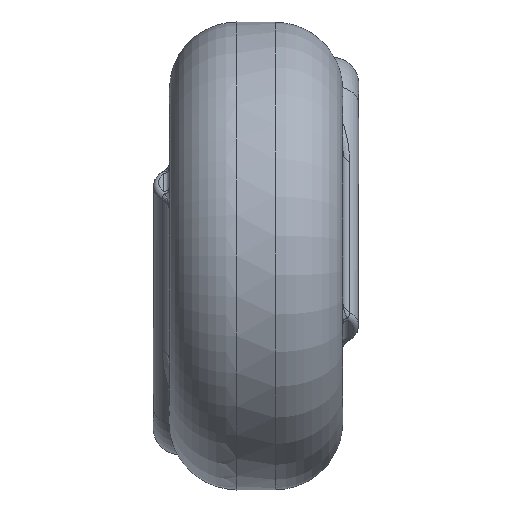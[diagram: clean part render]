
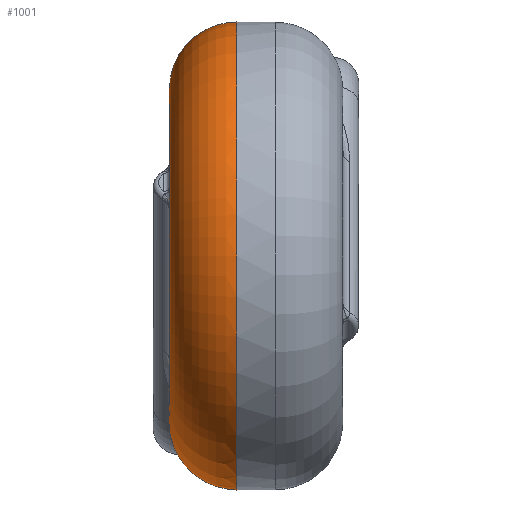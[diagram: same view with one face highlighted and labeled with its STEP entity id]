
A CAD part, left-side view. The second image highlights one B-rep face of the part: STEP entity #1001.
In plain terms, the highlighted toroidal (fillet/blend) face has major radius 6.15 mm and minor radius 2.5 mm.
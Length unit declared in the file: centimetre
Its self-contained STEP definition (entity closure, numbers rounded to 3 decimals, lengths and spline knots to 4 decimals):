
#746=CARTESIAN_POINT('',(0.4798,0.56,-0.3847));
#747=VERTEX_POINT('',#746);
#875=CARTESIAN_POINT('',(0.6041,0.56,-0.1153));
#876=VERTEX_POINT('',#875);
#884=CARTESIAN_POINT('',(0.6041,0.56,-0.1153));
#885=CARTESIAN_POINT('',(0.6177,0.56,-0.1371));
#886=CARTESIAN_POINT('',(0.6478,0.5563,-0.1763));
#887=CARTESIAN_POINT('',(0.6988,0.5341,-0.2188));
#888=CARTESIAN_POINT('',(0.744,0.4961,-0.2546));
#889=CARTESIAN_POINT('',(0.7739,0.4465,-0.2939));
#890=CARTESIAN_POINT('',(0.7813,0.3932,-0.3429));
#891=CARTESIAN_POINT('',(0.7649,0.3527,-0.399));
#892=CARTESIAN_POINT('',(0.7288,0.328,-0.4672));
#893=CARTESIAN_POINT('',(0.6795,0.3322,-0.5368));
#894=CARTESIAN_POINT('',(0.6336,0.3699,-0.5804));
#895=CARTESIAN_POINT('',(0.6051,0.4071,-0.5914));
#896=CARTESIAN_POINT('',(0.5808,0.4464,-0.5883));
#897=CARTESIAN_POINT('',(0.5585,0.4916,-0.5605));
#898=CARTESIAN_POINT('',(0.5377,0.5303,-0.5067));
#899=CARTESIAN_POINT('',(0.5152,0.5542,-0.4442));
#900=CARTESIAN_POINT('',(0.4934,0.56,-0.403));
#901=CARTESIAN_POINT('',(0.4798,0.56,-0.3847));
#902=B_SPLINE_CURVE_WITH_KNOTS('',3,(#884,#885,#886,#887,#888,#889,#890,#891,#892,#893,#894,#895,#896,#897,#898,#899,#900,#901),.UNSPECIFIED.,.F.,.U.,(4,1,1,1,1,1,1,1,1,1,1,1,1,1,1,4),(-1.2504,-1.1611,-1.0718,-0.9825,-0.8932,-0.8039,-0.7145,-0.6475,-0.5359,-0.4466,-0.4019,-0.3573,-0.268,-0.1786,-0.0893,0.),.UNSPECIFIED.);
#903=EDGE_CURVE('',#876,#747,#902,.T.);
#975=CARTESIAN_POINT('',(0.0,0.31,0.0));
#976=DIRECTION('',(0.0,1.0,0.0));
#977=DIRECTION('',(1.0,0.0,0.0));
#978=AXIS2_PLACEMENT_3D('',#975,#976,#977);
#979=TOROIDAL_SURFACE('',#978,0.615,0.25);
#980=CARTESIAN_POINT('',(0.865,0.31,0.));
#981=VERTEX_POINT('',#980);
#982=CARTESIAN_POINT('',(0.0,0.31,0.0));
#983=DIRECTION('',(0.0,1.0,0.0));
#984=DIRECTION('',(-1.0,0.0,0.0));
#985=AXIS2_PLACEMENT_3D('',#982,#983,#984);
#986=CIRCLE('',#985,0.865);
#987=EDGE_CURVE('',#981,#981,#986,.T.);
#988=ORIENTED_EDGE('',*,*,#987,.T.);
#989=EDGE_LOOP('',(#988));
#990=FACE_OUTER_BOUND('',#989,.T.);
#991=ORIENTED_EDGE('',*,*,#903,.F.);
#992=CARTESIAN_POINT('',(0.0,0.56,0.0));
#993=DIRECTION('',(0.0,-1.0,0.0));
#994=DIRECTION('',(-1.0,0.0,0.0));
#995=AXIS2_PLACEMENT_3D('',#992,#993,#994);
#996=CIRCLE('',#995,0.615);
#997=EDGE_CURVE('',#876,#747,#996,.T.);
#998=ORIENTED_EDGE('',*,*,#997,.T.);
#999=EDGE_LOOP('',(#991,#998));
#1000=FACE_BOUND('',#999,.T.);
#1001=ADVANCED_FACE('',(#990,#1000),#979,.T.);
